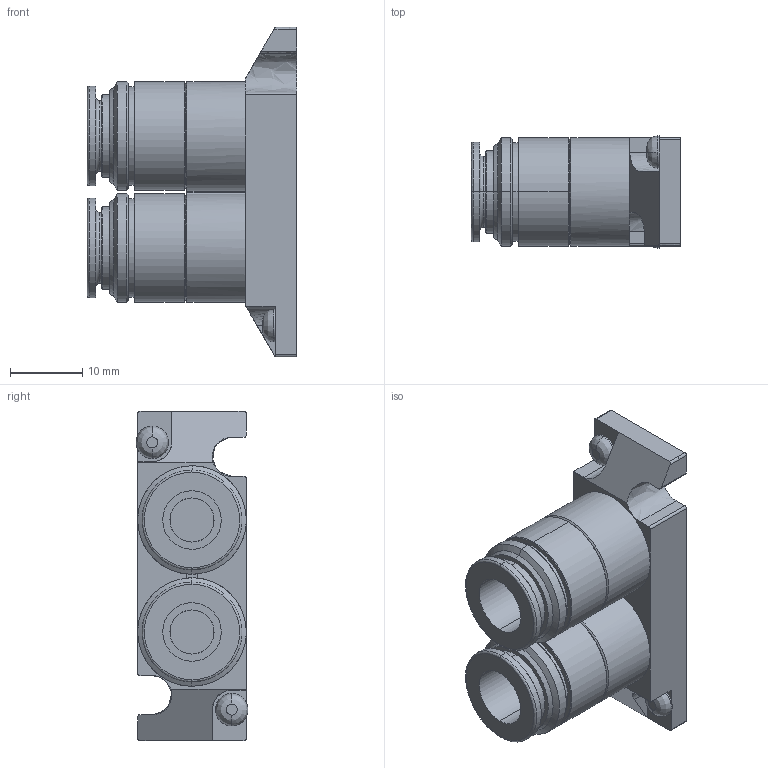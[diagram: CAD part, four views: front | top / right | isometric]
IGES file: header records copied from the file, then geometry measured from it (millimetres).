
Start section: ------------------------------------------------------------------------
Global section: file name: D:\ICADMX\tmp\trans3d_spg\CVICAD02.15632.F10_Port-PJ_15234.igs; native system: spGate; preprocessor: ver12.6.6; author: Unknown; organization: Unknown; date: 200901.145825; units: millimetre
Bounding box: 29 x 15.5 x 45.6 mm (x, y, z)
Volume: 9368 mm3; surface area: 5474.4 mm2
Topology: 1 solids, 1 shells, 140 faces, 318 edges, 194 vertices
Faces by surface type: bspline 140
